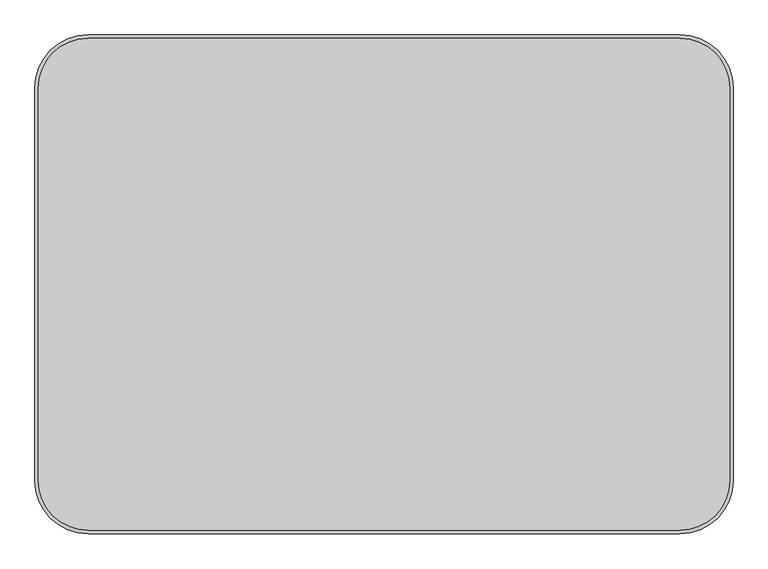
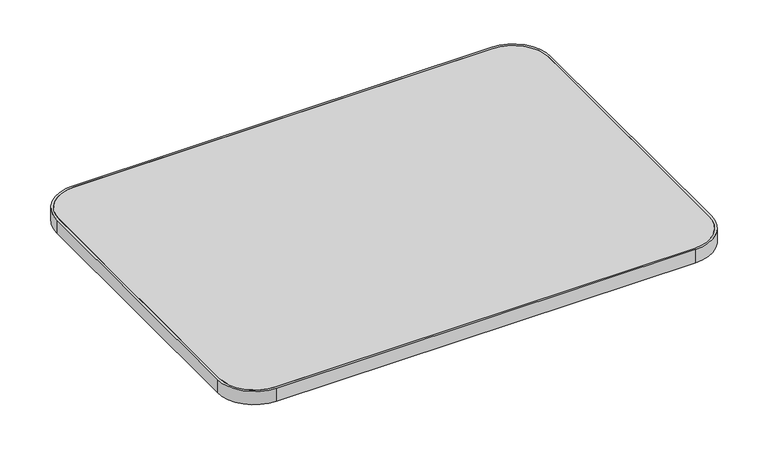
"""IFC4 building model written with IfcOpenShell, lengths in millimetres: furniture geometry, Steelcase - Answer Solution - Universal Table - Straight - 3mm Edge : 30D x 42W."""

import ifcopenshell
import ifcopenshell.guid

model = None  # the IFC model being written
_history = None  # IfcOwnerHistory: only IFC2X3 demands one
_inside = {}  # id of a spatial element -> (the spatial element, [elements in it])
_under = {}  # id of a project, library or spatial element -> (it, [spatial elements below it])
_declared = {}  # id of a project -> (the project, [libraries it declares])
_typed = {}  # id of a type object -> (the type object, [elements of that type])
_made_of = {}  # id of a material, layer set ... -> (it, [elements and type objects made of it])


def new_model(schema):
    """Start an empty IFC model of exactly this schema.

    Asked for "IFC4X3", IfcOpenShell would pick the latest addendum, in which some entities
    have other attributes; the version numbers below select the first issue.
    IFC2X3 requires an IfcOwnerHistory on every rooted entity: one is made here for all.
    """
    global model, _history
    if schema == "IFC4X3":
        model = ifcopenshell.file(schema_version=(4, 3, 0, 0))
    else:
        model = ifcopenshell.file(schema=schema)
    _inside.clear()
    _under.clear()
    _declared.clear()
    _typed.clear()
    _made_of.clear()
    _history = None
    if model.schema == "IFC2X3":
        org = make("IfcOrganization", Name="unknown")
        user = make(
            "IfcPersonAndOrganization",
            ThePerson=make("IfcPerson", FamilyName="unknown"),
            TheOrganization=org,
        )
        app = make(
            "IfcApplication",
            ApplicationDeveloper=org,
            Version="unknown",
            ApplicationFullName="unknown",
            ApplicationIdentifier="unknown",
        )
        _history = make(
            "IfcOwnerHistory",
            OwningUser=user,
            OwningApplication=app,
            ChangeAction="ADDED",
            CreationDate=0,
        )
    return model


def make(cls, **values):
    """One entity of the class cls with the attributes given. An attribute that is None is left unset."""
    return model.create_entity(
        cls, **{name: value for name, value in values.items() if value is not None}
    )


def rooted(cls, **values):
    """An entity with a GlobalId (a new one), such as an element, a storey or a relation."""
    return make(cls, GlobalId=ifcopenshell.guid.new(), OwnerHistory=_history, **values)


def si_unit(unit_type, name, prefix=None):
    """IfcSIUnit, for example si_unit("LENGTHUNIT", "METRE", prefix="MILLI")."""
    return make("IfcSIUnit", UnitType=unit_type, Prefix=prefix, Name=name)


def assignment(units):
    """IfcUnitAssignment: the units of a project."""
    return None if units is None else make("IfcUnitAssignment", Units=units)


def point(xyz):
    """IfcCartesianPoint."""
    return None if xyz is None else make("IfcCartesianPoint", Coordinates=xyz)


def direction(xyz):
    """IfcDirection."""
    return None if xyz is None else make("IfcDirection", DirectionRatios=xyz)


def frame(location, z_axis=None, x_axis=None):
    """IfcAxis2Placement3D, a coordinate frame: its origin and axes. An axis left out is left unset."""
    return make(
        "IfcAxis2Placement3D",
        Location=point(location),
        Axis=direction(z_axis),
        RefDirection=direction(x_axis),
    )


def frame_2d(location, x_axis=None):
    """IfcAxis2Placement2D, a coordinate frame in the plane: its origin and x axis."""
    return make(
        "IfcAxis2Placement2D", Location=point(location), RefDirection=direction(x_axis)
    )


def origin():
    """The frame at (0, 0, 0) with its axes left unset."""
    return frame((0.0, 0.0, 0.0))


def place(relative_to, where):
    """IfcLocalPlacement: puts the frame where relative to a parent placement (None: the world)."""
    return make(
        "IfcLocalPlacement", PlacementRelTo=relative_to, RelativePlacement=where
    )


def context(
    kind, dimensions, precision=None, world=None, true_north=None, identifier=None
):
    """IfcGeometricRepresentationContext, for example the 3D "Model" context."""
    return make(
        "IfcGeometricRepresentationContext",
        ContextIdentifier=identifier,
        ContextType=kind,
        CoordinateSpaceDimension=dimensions,
        Precision=precision,
        WorldCoordinateSystem=world,
        TrueNorth=true_north,
    )


def project(units=None, contexts=None):
    """IfcProject with its units and contexts."""
    return rooted(
        "IfcProject",
        Name="project",
        RepresentationContexts=contexts,
        UnitsInContext=assignment(units),
    )


def spatial(cls, under=None, at=None, **own):
    """A site, building, storey or space (cls), placed at a placement, below another one or the project."""
    s = rooted(cls, ObjectPlacement=at, **own)
    if under is not None:
        _under.setdefault(under.id(), (under, []))[1].append(s)
    return s


def polyline(points):
    """IfcPolyline through the points."""
    return make("IfcPolyline", Points=[point(p) for p in points])


def circle_curve(where, radius):
    """IfcCircle in the frame where."""
    return make("IfcCircle", Position=where, Radius=radius)


def trimmed(basis, trim1, trim2, sense, master):
    """IfcTrimmedCurve: the piece of a basis curve between two trims."""
    return make(
        "IfcTrimmedCurve",
        BasisCurve=basis,
        Trim1=trim1,
        Trim2=trim2,
        SenseAgreement=sense,
        MasterRepresentation=master,
    )


def segment(curve, same_sense, transition):
    """IfcCompositeCurveSegment."""
    return make(
        "IfcCompositeCurveSegment",
        Transition=transition,
        SameSense=same_sense,
        ParentCurve=curve,
    )


def composite_curve(segments, self_intersect=None):
    """IfcCompositeCurve: segments joined end to end."""
    return make("IfcCompositeCurve", Segments=segments, SelfIntersect=self_intersect)


def outline(outer, holes=None, kind="AREA"):
    """IfcArbitraryClosedProfileDef: a profile drawn as a closed curve; with holes, ...WithVoids."""
    if holes is None:
        return make("IfcArbitraryClosedProfileDef", ProfileType=kind, OuterCurve=outer)
    return make(
        "IfcArbitraryProfileDefWithVoids",
        ProfileType=kind,
        OuterCurve=outer,
        InnerCurves=holes,
    )


def extrude(swept, where, along, depth):
    """IfcExtrudedAreaSolid: the profile swept, set in the frame where, extruded along a direction by depth."""
    return make(
        "IfcExtrudedAreaSolid",
        SweptArea=swept,
        Position=where,
        ExtrudedDirection=direction(along),
        Depth=depth,
    )


def shape(context_of_items, identifier, shape_type, items):
    """IfcShapeRepresentation: the items that make up one representation, for example the "Body"."""
    return make(
        "IfcShapeRepresentation",
        ContextOfItems=context_of_items,
        RepresentationIdentifier=identifier,
        RepresentationType=shape_type,
        Items=items,
    )


def source(mapping_origin, context_of_items, identifier, shape_type, items):
    """IfcRepresentationMap: a shape defined once, which mapped items show again and again."""
    return make(
        "IfcRepresentationMap",
        MappingOrigin=mapping_origin,
        MappedRepresentation=shape(context_of_items, identifier, shape_type, items),
    )


def transform(
    local_origin,
    x_axis=None,
    y_axis=None,
    z_axis=None,
    scale=None,
    scale2=None,
    scale3=None,
    uniform=True,
):
    """IfcCartesianTransformationOperator3D, or its non-uniform kind. x_axis, y_axis, z_axis: its Axis1, 2, 3."""
    if uniform:
        return make(
            "IfcCartesianTransformationOperator3D",
            Axis1=direction(x_axis),
            Axis2=direction(y_axis),
            LocalOrigin=point(local_origin),
            Scale=scale,
            Axis3=direction(z_axis),
        )
    return make(
        "IfcCartesianTransformationOperator3DnonUniform",
        Axis1=direction(x_axis),
        Axis2=direction(y_axis),
        LocalOrigin=point(local_origin),
        Scale=scale,
        Axis3=direction(z_axis),
        Scale2=scale2,
        Scale3=scale3,
    )


def mapped(mapping_source, mapping_target):
    """IfcMappedItem: shows the shape of a source again, moved by a transform."""
    return make(
        "IfcMappedItem", MappingSource=mapping_source, MappingTarget=mapping_target
    )


def made_of(thing, what):
    """Note that an element or type object is made of a material, layer set ...; save() writes the relation."""
    if what is not None:
        _made_of.setdefault(what.id(), (what, []))[1].append(thing)
    return thing


def element(
    cls,
    number,
    at=None,
    inside=None,
    cuts=None,
    type_object=None,
    material=None,
    context=None,
    identifier="Body",
    shape_type=None,
    held_by="IfcProductDefinitionShape",
    body=None,
    shapes=None,
    **own,
):
    """One element of the class cls, such as IfcWall. Its Tag is "e" and its number.

    at: its placement. inside: the storey or other place that contains it. cuts: it is an
    opening in that element (IfcRelVoidsElement). A single representation is given by context,
    identifier, shape_type and body (its items); several are given by shapes. held_by: the class
    of the entity that holds the representations. save() writes the other relations.
    """
    e = rooted(cls, Tag="e%d" % number, ObjectPlacement=at, **own)
    if body is not None:
        shapes = [shape(context, identifier, shape_type, body)]
    if shapes is not None:
        e.Representation = make(held_by, Representations=shapes)
    if inside is not None:
        _inside.setdefault(inside.id(), (inside, []))[1].append(e)
    if cuts is not None:
        rooted(
            "IfcRelVoidsElement", RelatingBuildingElement=cuts, RelatedOpeningElement=e
        )
    if type_object is not None:
        _typed.setdefault(type_object.id(), (type_object, []))[1].append(e)
    return made_of(e, material)


def aggregate(whole, parts):
    """IfcRelAggregates: a whole, such as a stair, and the parts it consists of."""
    return rooted("IfcRelAggregates", RelatingObject=whole, RelatedObjects=parts)


def save(model, path):
    """Write the relations noted so far, then the file.

    IfcRelAggregates (storeys below a building ...), IfcRelContainedInSpatialStructure (elements
    in a storey), IfcRelDefinesByType, IfcRelAssociatesMaterial and IfcRelDeclares: one each for
    every whole, place, type object, material and project.
    """
    for whole, parts in _under.values():
        aggregate(whole, parts)
    for where, things in _inside.values():
        rooted(
            "IfcRelContainedInSpatialStructure",
            RelatedElements=things,
            RelatingStructure=where,
        )
    for kind, things in _typed.values():
        rooted("IfcRelDefinesByType", RelatedObjects=things, RelatingType=kind)
    for what, things in _made_of.values():
        rooted("IfcRelAssociatesMaterial", RelatedObjects=things, RelatingMaterial=what)
    for by, libraries in _declared.values():
        rooted("IfcRelDeclares", RelatingContext=by, RelatedDefinitions=libraries)
    model.write(path)


def furniture_0152e6e9(model_context):
    return source(origin(), model_context, "Body", "SweptSolid", [
        extrude(outline(composite_curve([segment(polyline([(5.08, -680.72), (5.08, -81.28)]), True, "CONTINUOUS"), segment(trimmed(circle_curve(frame_2d((81.28, -81.28)), 76.2), [point((5.08, -81.28))], [point((81.28, -5.08))], False, "CARTESIAN"), True, "CONTINUOUS"), segment(polyline([(81.28, -5.08), (985.52, -5.08)]), True, "CONTINUOUS"), segment(trimmed(circle_curve(frame_2d((985.52, -81.28)), 76.2), [point((985.52, -5.08))], [point((1061.72, -81.28))], False, "CARTESIAN"), True, "CONTINUOUS"), segment(polyline([(1061.72, -81.28), (1061.72, -680.72)]), True, "CONTINUOUS"), segment(trimmed(circle_curve(frame_2d((985.52, -680.72)), 76.2), [point((1061.72, -680.72))], [point((985.52, -756.92))], False, "CARTESIAN"), True, "CONTINUOUS"), segment(polyline([(985.52, -756.92), (81.28, -756.92)]), True, "CONTINUOUS"), segment(trimmed(circle_curve(frame_2d((81.28, -680.72)), 76.2), [point((81.28, -756.92))], [point((5.08, -680.72))], False, "CARTESIAN"), True, "CONTINUOUS")], self_intersect=False)), frame((0.0, 0.0, 668.274), z_axis=(0.0, 0.0, 1.0), x_axis=(1.0, 0.0, 0.0)), (0.0, 0.0, 1.0), 30.0990349),
        extrude(outline(composite_curve([segment(polyline([(81.28, 0.0), (985.52, 0.0)]), True, "CONTINUOUS"), segment(trimmed(circle_curve(frame_2d((985.52, -81.28)), 81.28), [point((985.52, 0.0))], [point((1066.8, -81.28))], False, "CARTESIAN"), True, "CONTINUOUS"), segment(polyline([(1066.8, -81.28), (1066.8, -680.72)]), True, "CONTINUOUS"), segment(trimmed(circle_curve(frame_2d((985.52, -680.72)), 81.28), [point((1066.8, -680.72))], [point((985.52, -762.0))], False, "CARTESIAN"), True, "CONTINUOUS"), segment(polyline([(985.52, -762.0), (81.28, -762.0)]), True, "CONTINUOUS"), segment(trimmed(circle_curve(frame_2d((81.28, -680.72)), 81.28), [point((81.28, -762.0))], [point((0.0, -680.72))], False, "CARTESIAN"), True, "CONTINUOUS"), segment(polyline([(0.0, -680.72), (0.0, -81.28)]), True, "CONTINUOUS"), segment(trimmed(circle_curve(frame_2d((81.28, -81.28)), 81.28), [point((0.0, -81.28))], [point((81.28, 0.0))], False, "CARTESIAN"), True, "CONTINUOUS")], self_intersect=False), holes=[composite_curve([segment(trimmed(circle_curve(frame_2d((81.28, -81.28)), 76.2), [point((81.28, -5.08))], [point((5.08, -81.28))], True, "CARTESIAN"), True, "CONTINUOUS"), segment(polyline([(5.08, -81.28), (5.08, -680.72)]), True, "CONTINUOUS"), segment(trimmed(circle_curve(frame_2d((81.28, -680.72)), 76.2), [point((5.08, -680.72))], [point((81.28, -756.92))], True, "CARTESIAN"), True, "CONTINUOUS"), segment(polyline([(81.28, -756.92), (985.52, -756.92)]), True, "CONTINUOUS"), segment(trimmed(circle_curve(frame_2d((985.52, -680.72)), 76.2), [point((985.52, -756.92))], [point((1061.72, -680.72))], True, "CARTESIAN"), True, "CONTINUOUS"), segment(polyline([(1061.72, -680.72), (1061.72, -81.28)]), True, "CONTINUOUS"), segment(trimmed(circle_curve(frame_2d((985.52, -81.28)), 76.2), [point((1061.72, -81.28))], [point((985.52, -5.08))], True, "CARTESIAN"), True, "CONTINUOUS"), segment(polyline([(985.52, -5.08), (81.28, -5.08)]), True, "CONTINUOUS")], self_intersect=False)]), frame((0.0, 0.0, 668.274), z_axis=(0.0, 0.0, 1.0), x_axis=(1.0, 0.0, 0.0)), (0.0, 0.0, 1.0), 30.0990349),
    ])


if __name__ == "__main__":
    model = new_model("IFC4")
    model_context = context("Model", 3, world=origin())
    ifc_project = project(units=[si_unit("LENGTHUNIT", "METRE", prefix="MILLI")], contexts=[model_context])
    site = spatial("IfcSite", under=ifc_project)
    building = spatial("IfcBuilding", under=site)
    placement = place(None, origin())
    furniture_shape = furniture_0152e6e9(model_context)
    element("IfcFurniture", 1, ObjectType="Steelcase - Answer Solution - Universal Table - Straight - 3mm Edge : 30D x 42W", at=placement, inside=building, context=model_context, shape_type="MappedRepresentation", body=[
        mapped(furniture_shape, transform((0.0, 0.0, 0.0), x_axis=(1.0, 0.0, 0.0), y_axis=(0.0, 1.0, 0.0), z_axis=(0.0, 0.0, 1.0))),
    ])
    save(model, "model.ifc")
